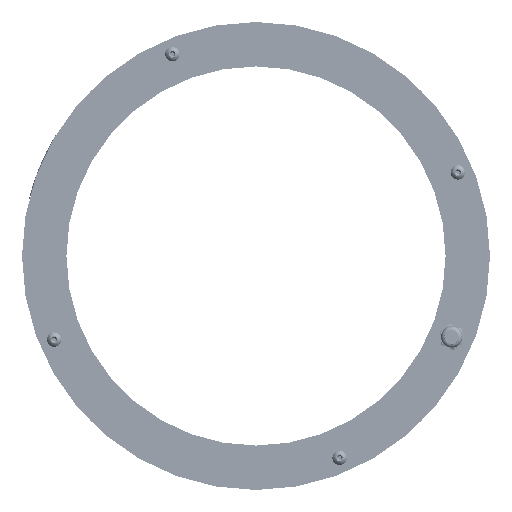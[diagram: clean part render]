
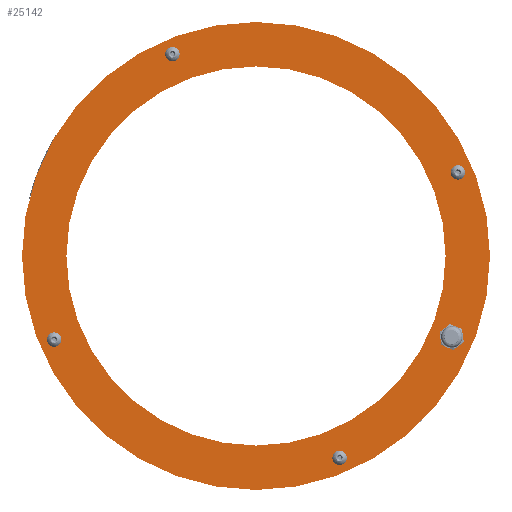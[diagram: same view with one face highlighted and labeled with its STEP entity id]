
A CAD part, front view. The second image highlights one B-rep face of the part: STEP entity #25142.
In plain terms, the highlighted planar face has unit normal (0, -1, 0).
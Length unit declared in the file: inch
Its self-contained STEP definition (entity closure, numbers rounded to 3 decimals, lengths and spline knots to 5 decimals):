
#689 = VERTEX_POINT ( 'NONE', #14944 ) ;
#1075 = AXIS2_PLACEMENT_3D ( 'NONE', #12380, #26416, #25953 ) ;
#2670 = CARTESIAN_POINT ( 'NONE',  ( 4.06341, 0., -1.68312 ) ) ;
#3508 = VERTEX_POINT ( 'NONE', #17600 ) ;
#3595 = VERTEX_POINT ( 'NONE', #11851 ) ;
#3685 = DIRECTION ( 'NONE',  ( 0., -1., 0. ) ) ;
#4234 = VERTEX_POINT ( 'NONE', #9166 ) ;
#4522 = CARTESIAN_POINT ( 'NONE',  ( 0., 0., 0. ) ) ;
#4567 = DIRECTION ( 'NONE',  ( 0., -1., 0. ) ) ;
#5269 = DIRECTION ( 'NONE',  ( 0., 0., -1. ) ) ;
#5300 = CIRCLE ( 'NONE', #10892, 0.06496 ) ;
#5958 = CARTESIAN_POINT ( 'NONE',  ( 3.93701, 0., 0. ) ) ;
#6098 = CARTESIAN_POINT ( 'NONE',  ( 0., 0., -4.85951 ) ) ;
#6338 = EDGE_CURVE ( 'NONE', #26085, #4234, #21947, .T. ) ;
#6456 = VERTEX_POINT ( 'NONE', #8247 ) ;
#6592 = DIRECTION ( 'NONE',  ( 0., -1., 0. ) ) ;
#6761 = EDGE_LOOP ( 'NONE', ( #20138, #11669 ) ) ;
#6801 = EDGE_LOOP ( 'NONE', ( #22829, #15859 ) ) ;
#6831 = DIRECTION ( 'NONE',  ( 0., -1., 0. ) ) ;
#7146 = VERTEX_POINT ( 'NONE', #24880 ) ;
#7409 = DIRECTION ( 'NONE',  ( 0., 0., -1. ) ) ;
#7958 = EDGE_CURVE ( 'NONE', #4234, #26085, #9714, .T. ) ;
#7973 = FACE_BOUND ( 'NONE', #6801, .T. ) ;
#8247 = CARTESIAN_POINT ( 'NONE',  ( 1.73639, 0., -4.12705 ) ) ;
#8701 = CIRCLE ( 'NONE', #22689, 0.06496 ) ;
#8920 = DIRECTION ( 'NONE',  ( 0., -1., 0. ) ) ;
#8950 = EDGE_CURVE ( 'NONE', #689, #11392, #20300, .T. ) ;
#9149 = CARTESIAN_POINT ( 'NONE',  ( 4.06341, 0., -1.85044 ) ) ;
#9166 = CARTESIAN_POINT ( 'NONE',  ( 4.19201, 0., 1.67143 ) ) ;
#9307 = AXIS2_PLACEMENT_3D ( 'NONE', #13035, #4567, #10175 ) ;
#9652 = CARTESIAN_POINT ( 'NONE',  ( 4.06341, 0., -1.68312 ) ) ;
#9714 = CIRCLE ( 'NONE', #34468, 0.06496 ) ;
#9768 = DIRECTION ( 'NONE',  ( 0., 0., -1. ) ) ;
#10062 = DIRECTION ( 'NONE',  ( 0., 0., -1. ) ) ;
#10175 = DIRECTION ( 'NONE',  ( 0., 0., -1. ) ) ;
#10419 = CARTESIAN_POINT ( 'NONE',  ( -1.73639, 0., 4.25697 ) ) ;
#10518 = CARTESIAN_POINT ( 'NONE',  ( 4.06341, 0., -1.5158 ) ) ;
#10892 = AXIS2_PLACEMENT_3D ( 'NONE', #26890, #18332, #24266 ) ;
#11020 = VERTEX_POINT ( 'NONE', #10518 ) ;
#11392 = VERTEX_POINT ( 'NONE', #6098 ) ;
#11669 = ORIENTED_EDGE ( 'NONE', *, *, #30587, .F. ) ;
#11820 = FACE_OUTER_BOUND ( 'NONE', #27236, .T. ) ;
#11851 = CARTESIAN_POINT ( 'NONE',  ( -4.19201, 0., -1.67143 ) ) ;
#12026 = EDGE_LOOP ( 'NONE', ( #18201, #27327 ) ) ;
#12380 = CARTESIAN_POINT ( 'NONE',  ( 1.73639, 0., -4.19201 ) ) ;
#12522 = DIRECTION ( 'NONE',  ( 0., -1., 0. ) ) ;
#12562 = EDGE_CURVE ( 'NONE', #14881, #7146, #5300, .T. ) ;
#12687 = FACE_BOUND ( 'NONE', #24988, .T. ) ;
#12897 = CIRCLE ( 'NONE', #21483, 0.16732 ) ;
#12938 = ORIENTED_EDGE ( 'NONE', *, *, #28223, .F. ) ;
#13035 = CARTESIAN_POINT ( 'NONE',  ( 4.19201, 0., 1.73639 ) ) ;
#13965 = DIRECTION ( 'NONE',  ( 0., -1., 0. ) ) ;
#14501 = EDGE_CURVE ( 'NONE', #26450, #15782, #27680, .T. ) ;
#14881 = VERTEX_POINT ( 'NONE', #10419 ) ;
#14944 = CARTESIAN_POINT ( 'NONE',  ( 0., 0., 4.85951 ) ) ;
#15652 = CARTESIAN_POINT ( 'NONE',  ( 0., 0., 0. ) ) ;
#15782 = VERTEX_POINT ( 'NONE', #16094 ) ;
#15859 = ORIENTED_EDGE ( 'NONE', *, *, #6338, .F. ) ;
#16050 = CIRCLE ( 'NONE', #1075, 0.06496 ) ;
#16094 = CARTESIAN_POINT ( 'NONE',  ( 0., 0., 3.93701 ) ) ;
#16537 = FACE_BOUND ( 'NONE', #6761, .T. ) ;
#16929 = EDGE_CURVE ( 'NONE', #6456, #3508, #8701, .T. ) ;
#16972 = CIRCLE ( 'NONE', #22771, 0.06496 ) ;
#17076 = ORIENTED_EDGE ( 'NONE', *, *, #28892, .F. ) ;
#17154 = DIRECTION ( 'NONE',  ( 0., -1., 0. ) ) ;
#17270 = DIRECTION ( 'NONE',  ( 0., 0., -1. ) ) ;
#17367 = CIRCLE ( 'NONE', #23922, 4.85951 ) ;
#17600 = CARTESIAN_POINT ( 'NONE',  ( 1.73639, 0., -4.25697 ) ) ;
#18201 = ORIENTED_EDGE ( 'NONE', *, *, #20413, .F. ) ;
#18220 = VERTEX_POINT ( 'NONE', #9149 ) ;
#18332 = DIRECTION ( 'NONE',  ( 0., -1., 0. ) ) ;
#19965 = AXIS2_PLACEMENT_3D ( 'NONE', #5958, #3685, #22257 ) ;
#20011 = ORIENTED_EDGE ( 'NONE', *, *, #32540, .F. ) ;
#20138 = ORIENTED_EDGE ( 'NONE', *, *, #14501, .F. ) ;
#20300 = CIRCLE ( 'NONE', #21735, 4.85951 ) ;
#20394 = CIRCLE ( 'NONE', #22973, 0.06496 ) ;
#20413 = EDGE_CURVE ( 'NONE', #7146, #14881, #25883, .T. ) ;
#20658 = CARTESIAN_POINT ( 'NONE',  ( -1.73639, 0., 4.19201 ) ) ;
#21483 = AXIS2_PLACEMENT_3D ( 'NONE', #2670, #24223, #5269 ) ;
#21735 = AXIS2_PLACEMENT_3D ( 'NONE', #15652, #26838, #32286 ) ;
#21947 = CIRCLE ( 'NONE', #9307, 0.06496 ) ;
#22257 = DIRECTION ( 'NONE',  ( 0., 0., -1. ) ) ;
#22369 = EDGE_CURVE ( 'NONE', #18220, #11020, #12897, .T. ) ;
#22404 = CARTESIAN_POINT ( 'NONE',  ( -4.19201, 0., -1.73639 ) ) ;
#22689 = AXIS2_PLACEMENT_3D ( 'NONE', #26370, #6831, #10062 ) ;
#22771 = AXIS2_PLACEMENT_3D ( 'NONE', #22404, #13965, #30149 ) ;
#22829 = ORIENTED_EDGE ( 'NONE', *, *, #7958, .F. ) ;
#22860 = CARTESIAN_POINT ( 'NONE',  ( 4.19201, 0., 1.73639 ) ) ;
#22973 = AXIS2_PLACEMENT_3D ( 'NONE', #34833, #29466, #7409 ) ;
#23741 = FACE_BOUND ( 'NONE', #12026, .T. ) ;
#23848 = ORIENTED_EDGE ( 'NONE', *, *, #22369, .F. ) ;
#23922 = AXIS2_PLACEMENT_3D ( 'NONE', #4522, #12522, #31546 ) ;
#23998 = AXIS2_PLACEMENT_3D ( 'NONE', #33430, #17154, #17270 ) ;
#24223 = DIRECTION ( 'NONE',  ( 0., -1., 0. ) ) ;
#24266 = DIRECTION ( 'NONE',  ( 0., 0., -1. ) ) ;
#24313 = CIRCLE ( 'NONE', #35409, 0.16732 ) ;
#24601 = FACE_BOUND ( 'NONE', #32729, .T. ) ;
#24820 = VERTEX_POINT ( 'NONE', #28504 ) ;
#24880 = CARTESIAN_POINT ( 'NONE',  ( -1.73639, 0., 4.12705 ) ) ;
#24988 = EDGE_LOOP ( 'NONE', ( #23848, #20011 ) ) ;
#25142 = ADVANCED_FACE ( 'NONE', ( #24601, #30968, #23741, #7973, #12687, #11820, #16537 ), #27396, .T. ) ;
#25367 = DIRECTION ( 'NONE',  ( 0., -1., 0. ) ) ;
#25605 = DIRECTION ( 'NONE',  ( 0., 0., -1. ) ) ;
#25670 = ORIENTED_EDGE ( 'NONE', *, *, #8950, .T. ) ;
#25883 = CIRCLE ( 'NONE', #28733, 0.06496 ) ;
#25953 = DIRECTION ( 'NONE',  ( 0., 0., -1. ) ) ;
#26085 = VERTEX_POINT ( 'NONE', #27445 ) ;
#26095 = DIRECTION ( 'NONE',  ( 0., -1., 0. ) ) ;
#26370 = CARTESIAN_POINT ( 'NONE',  ( 1.73639, 0., -4.19201 ) ) ;
#26416 = DIRECTION ( 'NONE',  ( 0., -1., 0. ) ) ;
#26450 = VERTEX_POINT ( 'NONE', #35285 ) ;
#26529 = ORIENTED_EDGE ( 'NONE', *, *, #27844, .F. ) ;
#26838 = DIRECTION ( 'NONE',  ( 0., -1., 0. ) ) ;
#26890 = CARTESIAN_POINT ( 'NONE',  ( -1.73639, 0., 4.19201 ) ) ;
#27236 = EDGE_LOOP ( 'NONE', ( #35207, #25670 ) ) ;
#27327 = ORIENTED_EDGE ( 'NONE', *, *, #12562, .F. ) ;
#27396 = PLANE ( 'NONE',  #19965 ) ;
#27445 = CARTESIAN_POINT ( 'NONE',  ( 4.19201, 0., 1.80135 ) ) ;
#27680 = CIRCLE ( 'NONE', #23998, 3.93701 ) ;
#27844 = EDGE_CURVE ( 'NONE', #3595, #24820, #20394, .T. ) ;
#27997 = DIRECTION ( 'NONE',  ( 0., 0., -1. ) ) ;
#28223 = EDGE_CURVE ( 'NONE', #24820, #3595, #16972, .T. ) ;
#28504 = CARTESIAN_POINT ( 'NONE',  ( -4.19201, 0., -1.80135 ) ) ;
#28595 = EDGE_CURVE ( 'NONE', #11392, #689, #17367, .T. ) ;
#28733 = AXIS2_PLACEMENT_3D ( 'NONE', #20658, #6592, #28760 ) ;
#28760 = DIRECTION ( 'NONE',  ( 0., 0., -1. ) ) ;
#28892 = EDGE_CURVE ( 'NONE', #3508, #6456, #16050, .T. ) ;
#29466 = DIRECTION ( 'NONE',  ( 0., -1., 0. ) ) ;
#29937 = EDGE_LOOP ( 'NONE', ( #12938, #26529 ) ) ;
#30149 = DIRECTION ( 'NONE',  ( 0., 0., -1. ) ) ;
#30587 = EDGE_CURVE ( 'NONE', #15782, #26450, #35102, .T. ) ;
#30968 = FACE_BOUND ( 'NONE', #29937, .T. ) ;
#31546 = DIRECTION ( 'NONE',  ( 0., 0., -1. ) ) ;
#32286 = DIRECTION ( 'NONE',  ( 0., 0., -1. ) ) ;
#32402 = AXIS2_PLACEMENT_3D ( 'NONE', #33604, #25367, #25605 ) ;
#32540 = EDGE_CURVE ( 'NONE', #11020, #18220, #24313, .T. ) ;
#32729 = EDGE_LOOP ( 'NONE', ( #17076, #33636 ) ) ;
#33430 = CARTESIAN_POINT ( 'NONE',  ( 0., 0., 0. ) ) ;
#33604 = CARTESIAN_POINT ( 'NONE',  ( 0., 0., 0. ) ) ;
#33636 = ORIENTED_EDGE ( 'NONE', *, *, #16929, .F. ) ;
#34468 = AXIS2_PLACEMENT_3D ( 'NONE', #22860, #8920, #27997 ) ;
#34833 = CARTESIAN_POINT ( 'NONE',  ( -4.19201, 0., -1.73639 ) ) ;
#35102 = CIRCLE ( 'NONE', #32402, 3.93701 ) ;
#35207 = ORIENTED_EDGE ( 'NONE', *, *, #28595, .T. ) ;
#35285 = CARTESIAN_POINT ( 'NONE',  ( 0., 0., -3.93701 ) ) ;
#35409 = AXIS2_PLACEMENT_3D ( 'NONE', #9652, #26095, #9768 ) ;
